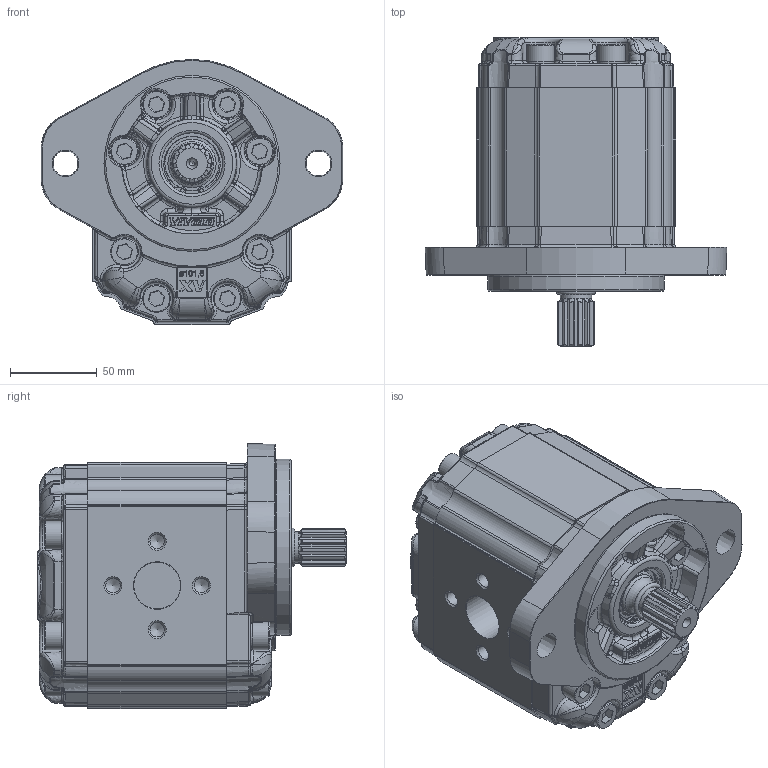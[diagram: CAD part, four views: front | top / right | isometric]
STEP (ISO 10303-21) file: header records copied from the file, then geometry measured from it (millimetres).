
FILE_DESCRIPTION(/* description */ ('Unknown'),/* implementation_level */ '2;1');
FILE_NAME(/* name */ 'X3R7431IBBE',/* time_stamp */ '2021-04-26T12:54:30+02:00',/* author */ ('Unknown'),/* organization */ ('Unknown'),/* preprocessor_version */ 'ST-DEVELOPER v16.7',/* originating_system */ 'Solid Edge',/* authorisation */ 'Unknown');
FILE_SCHEMA (('AP242_MANAGED_MODEL_BASED_3D_ENGINEERING_MIM_LF { 1 0 10303 442 1 1 4 }','AUTOMOTIVE_DESIGN {1 0 10303 214 3 1 1}'));
Products named in the file (5): X3R7431IBBE; X3R31; 3I; X3BBH80; XR331-E
Assembly tree (4 placements, depth 2):
  X3R7431IBBE
    X3R31
    3I
    X3BBH80
    XR331-E
Bounding box: 174 x 178.2 x 153 mm (x, y, z)
Volume: 1971764.7 mm3; surface area: 205300 mm2
Topology: 4 solids, 21 shells, 2461 faces, 6311 edges, 3980 vertices
Faces by surface type: bspline 1018, plane 718, cylinder 509, cone 106, torus 94, sphere 16
Full cylindrical faces by diameter (mm): 2 x2, 8.376 x8, 10 x16, 15.25 x1, 15.8 x16, 16 x16, 18 x2, 24.98 x1, 25 x2, 25.968 x1, 27 x2, 28.16 x1, 31.293 x1, 32.742 x1, 34.956 x1, 35 x1, 35.2 x1, 37 x1, 101.6 x1
Entity records: 136317 total; most frequent: CARTESIAN_POINT 71478, ORIENTED_EDGE 12166, EDGE_CURVE 6083, DIRECTION 5756, VERTEX_POINT 3918, B_SPLINE_CURVE_WITH_KNOTS 3782, FACE_BOUND 2729, EDGE_LOOP 2718
